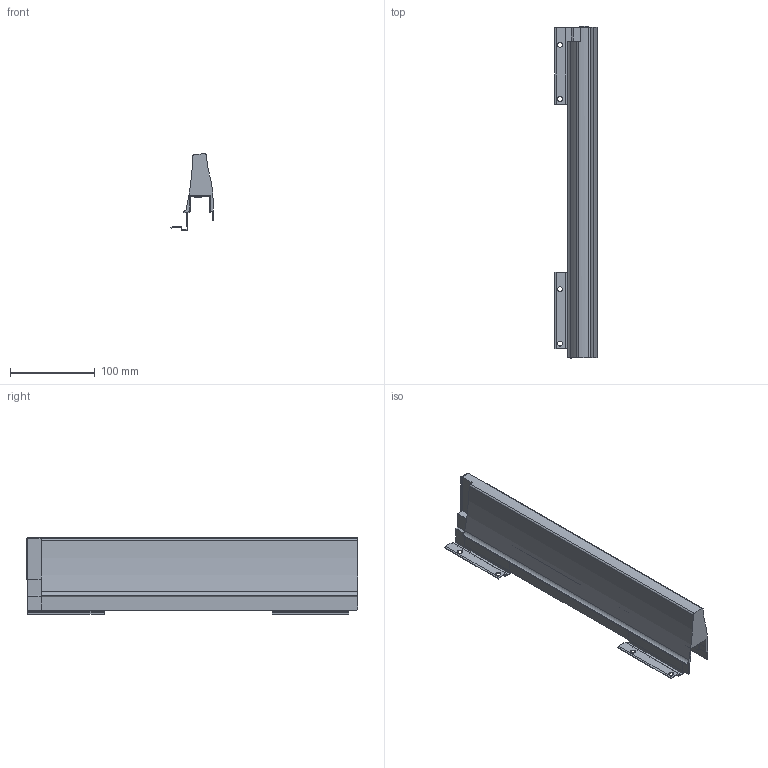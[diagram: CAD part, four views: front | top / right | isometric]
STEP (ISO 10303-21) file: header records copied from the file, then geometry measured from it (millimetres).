
FILE_DESCRIPTION (( 'STEP AP214' ), '1' );
FILE_NAME ('_XP Standard Dekorseite H95 NL400 RE .step', '2010-07-14T06:08:55', ( 'grass' ), ( '' ), 'SwSTEP 2.0', 'SolidWorks 2010', '' );
FILE_SCHEMA (( 'AUTOMOTIVE_DESIGN' ));
Length unit declared in the file: millimetre
Products named in the file (1): _XP Standard Dekorseite H95 NL400 RE 
Bounding box: 50.01 x 391.5 x 90 mm (x, y, z)
Volume: 470561.7 mm3; surface area: 125811.7 mm2
Topology: 1 solids, 1 shells, 105 faces, 306 edges, 200 vertices
Faces by surface type: plane 79, cylinder 26
Entity records: 3497 total; most frequent: CARTESIAN_POINT 612, ORIENTED_EDGE 612, DIRECTION 573, EDGE_CURVE 306, LINE 251, VECTOR 251, VERTEX_POINT 200, AXIS2_PLACEMENT_3D 161
